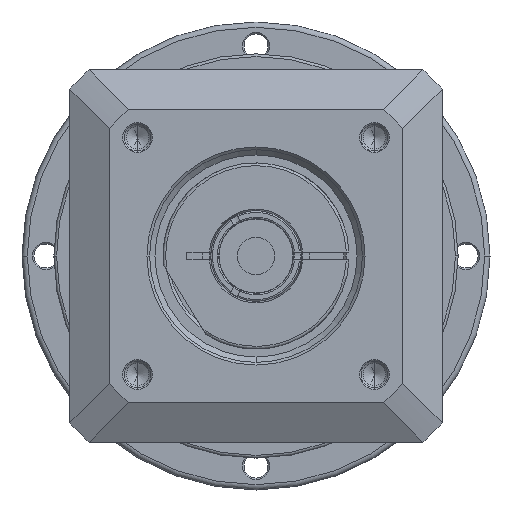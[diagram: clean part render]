
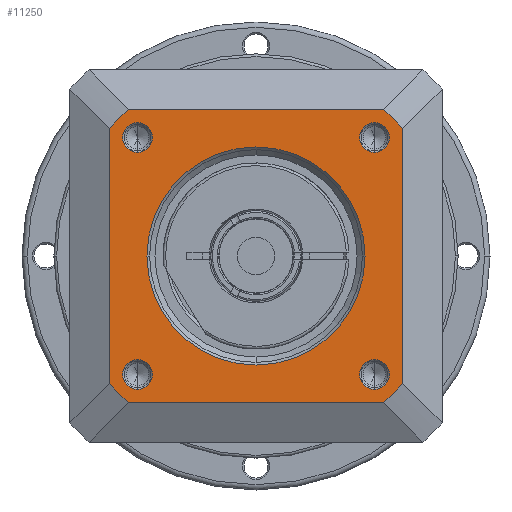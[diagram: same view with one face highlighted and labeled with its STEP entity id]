
A CAD part, left-side view. The second image highlights one B-rep face of the part: STEP entity #11250.
In plain terms, the highlighted planar face has unit normal (-1, 0, 0) as drawn and (0, 0, 1) by its records, which use the part's own axes.
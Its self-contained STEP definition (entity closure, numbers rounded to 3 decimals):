
#9957=CARTESIAN_POINT('',(0.,0.,
25.));
#9958=DIRECTION('',(0.,0.,-1.));
#9959=DIRECTION('',(0.,-1.,0.));
#9960=AXIS2_PLACEMENT_3D('',#9957,#9958,#9959);
#9962=CARTESIAN_POINT('',(0.,0.,
25.));
#9963=DIRECTION('',(0.,0.,-1.));
#9964=DIRECTION('',(0.,1.,0.));
#9965=AXIS2_PLACEMENT_3D('',#9962,#9963,#9964);
#9967=DIRECTION('',(1.,0.,0.));
#9968=VECTOR('',#9967,48.);
#9969=CARTESIAN_POINT('',(-24.,27.5,25.));
#9970=LINE('',#9969,#9968);
#9971=CARTESIAN_POINT('',(0.,0.,25.));
#9972=DIRECTION('',(0.,0.,1.));
#9973=DIRECTION('',(0.753,0.658,0.));
#9974=AXIS2_PLACEMENT_3D('',#9971,#9972,#9973);
#9976=DIRECTION('',(0.,1.,0.));
#9977=VECTOR('',#9976,48.);
#9978=CARTESIAN_POINT('',(27.5,-24.,25.));
#9979=LINE('',#9978,#9977);
#9980=DIRECTION('',(1.,0.,0.));
#9981=VECTOR('',#9980,48.);
#9982=CARTESIAN_POINT('',(-24.,-27.5,25.));
#9983=LINE('',#9982,#9981);
#9984=CARTESIAN_POINT('',(0.,0.,25.));
#9985=DIRECTION('',(0.,0.,1.));
#9986=DIRECTION('',(-0.753,-0.658,0.));
#9987=AXIS2_PLACEMENT_3D('',#9984,#9985,#9986);
#9989=DIRECTION('',(0.,1.,0.));
#9990=VECTOR('',#9989,48.);
#9991=CARTESIAN_POINT('',(-27.5,-24.,25.));
#9992=LINE('',#9991,#9990);
#10007=CARTESIAN_POINT('',(0.,0.,25.));
#10008=DIRECTION('',(0.,0.,1.));
#10009=DIRECTION('',(-0.658,0.753,0.));
#10010=AXIS2_PLACEMENT_3D('',#10007,#10008,#10009);
#10017=CARTESIAN_POINT('',(0.,0.,25.));
#10018=DIRECTION('',(0.,0.,1.));
#10019=DIRECTION('',(0.658,-0.753,0.));
#10020=AXIS2_PLACEMENT_3D('',#10017,#10018,#10019);
#10034=CARTESIAN_POINT('',(-24.,27.5,25.));
#10126=CARTESIAN_POINT('',(27.5,-24.,25.));
#10154=CARTESIAN_POINT('',(24.,-27.5,25.));
#10194=CARTESIAN_POINT('',(-27.5,24.,25.));
#10203=CARTESIAN_POINT('',(-22.274,22.274,25.));
#10204=DIRECTION('',(0.,0.,1.));
#10205=DIRECTION('',(-1.,0.,0.));
#10206=AXIS2_PLACEMENT_3D('',#10203,#10204,#10205);
#10221=CARTESIAN_POINT('',(-22.274,22.274,25.));
#10222=DIRECTION('',(0.,0.,1.));
#10223=DIRECTION('',(1.,0.,0.));
#10224=AXIS2_PLACEMENT_3D('',#10221,#10222,#10223);
#10257=CARTESIAN_POINT('',(22.274,22.274,25.));
#10258=DIRECTION('',(0.,0.,1.));
#10259=DIRECTION('',(-1.,0.,0.));
#10260=AXIS2_PLACEMENT_3D('',#10257,#10258,#10259);
#10275=CARTESIAN_POINT('',(22.274,22.274,25.));
#10276=DIRECTION('',(0.,0.,1.));
#10277=DIRECTION('',(1.,0.,0.));
#10278=AXIS2_PLACEMENT_3D('',#10275,#10276,#10277);
#10311=CARTESIAN_POINT('',(22.274,-22.274,25.));
#10312=DIRECTION('',(0.,0.,1.));
#10313=DIRECTION('',(-1.,0.,0.));
#10314=AXIS2_PLACEMENT_3D('',#10311,#10312,#10313);
#10329=CARTESIAN_POINT('',(22.274,-22.274,25.));
#10330=DIRECTION('',(0.,0.,1.));
#10331=DIRECTION('',(1.,0.,0.));
#10332=AXIS2_PLACEMENT_3D('',#10329,#10330,#10331);
#10365=CARTESIAN_POINT('',(-22.274,-22.274,25.));
#10366=DIRECTION('',(0.,0.,1.));
#10367=DIRECTION('',(-1.,0.,0.));
#10368=AXIS2_PLACEMENT_3D('',#10365,#10366,#10367);
#10383=CARTESIAN_POINT('',(-22.274,-22.274,25.));
#10384=DIRECTION('',(0.,0.,1.));
#10385=DIRECTION('',(1.,0.,0.));
#10386=AXIS2_PLACEMENT_3D('',#10383,#10384,#10385);
#10473=CARTESIAN_POINT('',(-25.074,22.274,25.));
#10474=CARTESIAN_POINT('',(-19.474,22.274,25.));
#10475=VERTEX_POINT('',#10473);
#10476=VERTEX_POINT('',#10474);
#10499=CARTESIAN_POINT('',(-27.5,-24.,25.));
#10500=CARTESIAN_POINT('',(-24.,-27.5,25.));
#10501=VERTEX_POINT('',#10499);
#10502=VERTEX_POINT('',#10500);
#10503=CARTESIAN_POINT('',(27.5,24.,25.));
#10504=CARTESIAN_POINT('',(24.,27.5,25.));
#10505=VERTEX_POINT('',#10503);
#10506=VERTEX_POINT('',#10504);
#10515=VERTEX_POINT('',#10034);
#10518=VERTEX_POINT('',#10126);
#10519=VERTEX_POINT('',#10154);
#10522=VERTEX_POINT('',#10194);
#10531=CARTESIAN_POINT('',(25.074,22.274,25.));
#10532=CARTESIAN_POINT('',(19.474,22.274,25.));
#10533=VERTEX_POINT('',#10531);
#10534=VERTEX_POINT('',#10532);
#10539=CARTESIAN_POINT('',(25.074,-22.274,25.));
#10540=CARTESIAN_POINT('',(19.474,-22.274,25.));
#10541=VERTEX_POINT('',#10539);
#10542=VERTEX_POINT('',#10540);
#10547=CARTESIAN_POINT('',(-19.474,-22.274,25.));
#10548=CARTESIAN_POINT('',(-25.074,-22.274,25.));
#10549=VERTEX_POINT('',#10547);
#10550=VERTEX_POINT('',#10548);
#10555=CARTESIAN_POINT('',(0.,-20.5,25.));
#10556=CARTESIAN_POINT('',(0.,20.5,25.));
#10557=VERTEX_POINT('',#10555);
#10558=VERTEX_POINT('',#10556);
#11198=CARTESIAN_POINT('',(0.,0.,25.));
#11199=DIRECTION('',(0.,0.,1.));
#11200=DIRECTION('',(1.,0.,0.));
#11201=AXIS2_PLACEMENT_3D('',#11198,#11199,#11200);
#11202=PLANE('',#11201);
#11204=ORIENTED_EDGE('',*,*,#11203,.F.);
#11206=ORIENTED_EDGE('',*,*,#11205,.T.);
#11208=ORIENTED_EDGE('',*,*,#11207,.F.);
#11210=ORIENTED_EDGE('',*,*,#11209,.F.);
#11212=ORIENTED_EDGE('',*,*,#11211,.F.);
#11214=ORIENTED_EDGE('',*,*,#11213,.F.);
#11216=ORIENTED_EDGE('',*,*,#11215,.F.);
#11218=ORIENTED_EDGE('',*,*,#11217,.T.);
#11219=EDGE_LOOP('',(#11204,#11206,#11208,#11210,#11212,#11214,#11216,#11218));
#11220=FACE_OUTER_BOUND('',#11219,.F.);
#11221=ORIENTED_EDGE('',*,*,#11188,.F.);
#11223=ORIENTED_EDGE('',*,*,#11222,.F.);
#11224=EDGE_LOOP('',(#11221,#11223));
#11225=FACE_BOUND('',#11224,.F.);
#11227=ORIENTED_EDGE('',*,*,#11226,.T.);
#11229=ORIENTED_EDGE('',*,*,#11228,.T.);
#11230=EDGE_LOOP('',(#11227,#11229));
#11231=FACE_BOUND('',#11230,.F.);
#11233=ORIENTED_EDGE('',*,*,#11232,.T.);
#11235=ORIENTED_EDGE('',*,*,#11234,.T.);
#11236=EDGE_LOOP('',(#11233,#11235));
#11237=FACE_BOUND('',#11236,.F.);
#11239=ORIENTED_EDGE('',*,*,#11238,.T.);
#11241=ORIENTED_EDGE('',*,*,#11240,.T.);
#11242=EDGE_LOOP('',(#11239,#11241));
#11243=FACE_BOUND('',#11242,.F.);
#11245=ORIENTED_EDGE('',*,*,#11244,.T.);
#11247=ORIENTED_EDGE('',*,*,#11246,.T.);
#11248=EDGE_LOOP('',(#11245,#11247));
#11249=FACE_BOUND('',#11248,.F.);
#11250=ADVANCED_FACE('',(#11220,#11225,#11231,#11237,#11243,#11249),#11202,.T.);
#9961=CIRCLE('',#9960,20.5);
#9966=CIRCLE('',#9965,20.5);
#9975=CIRCLE('',#9974,36.5);
#9988=CIRCLE('',#9987,36.5);
#10011=CIRCLE('',#10010,36.5);
#10021=CIRCLE('',#10020,36.5);
#10207=CIRCLE('',#10206,2.8);
#10225=CIRCLE('',#10224,2.8);
#10261=CIRCLE('',#10260,2.8);
#10279=CIRCLE('',#10278,2.8);
#10315=CIRCLE('',#10314,2.8);
#10333=CIRCLE('',#10332,2.8);
#10369=CIRCLE('',#10368,2.8);
#10387=CIRCLE('',#10386,2.8);
#11188=EDGE_CURVE('',#10557,#10558,#9961,.T.);
#11203=EDGE_CURVE('',#10515,#10522,#10011,.T.);
#11205=EDGE_CURVE('',#10515,#10506,#9970,.T.);
#11207=EDGE_CURVE('',#10505,#10506,#9975,.T.);
#11209=EDGE_CURVE('',#10518,#10505,#9979,.T.);
#11211=EDGE_CURVE('',#10519,#10518,#10021,.T.);
#11213=EDGE_CURVE('',#10502,#10519,#9983,.T.);
#11215=EDGE_CURVE('',#10501,#10502,#9988,.T.);
#11217=EDGE_CURVE('',#10501,#10522,#9992,.T.);
#11222=EDGE_CURVE('',#10558,#10557,#9966,.T.);
#11226=EDGE_CURVE('',#10475,#10476,#10207,.T.);
#11228=EDGE_CURVE('',#10476,#10475,#10225,.T.);
#11232=EDGE_CURVE('',#10534,#10533,#10261,.T.);
#11234=EDGE_CURVE('',#10533,#10534,#10279,.T.);
#11238=EDGE_CURVE('',#10542,#10541,#10315,.T.);
#11240=EDGE_CURVE('',#10541,#10542,#10333,.T.);
#11244=EDGE_CURVE('',#10550,#10549,#10369,.T.);
#11246=EDGE_CURVE('',#10549,#10550,#10387,.T.);
